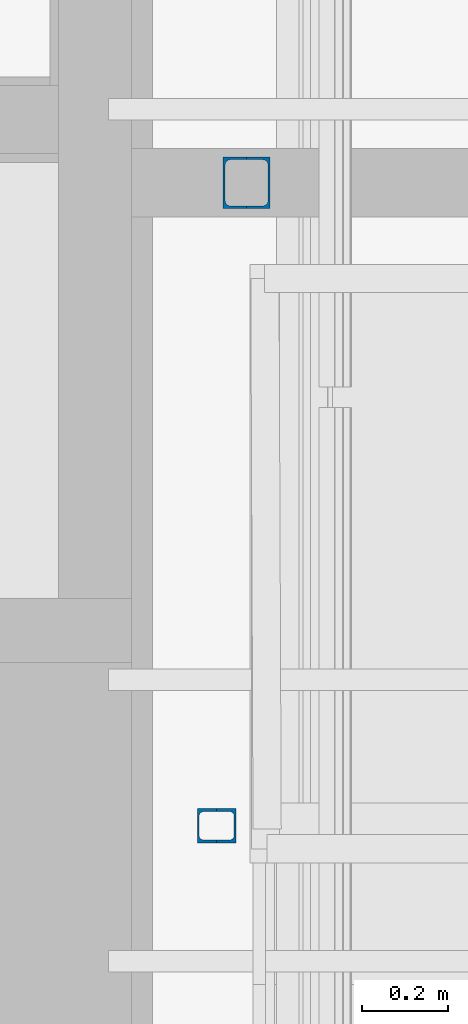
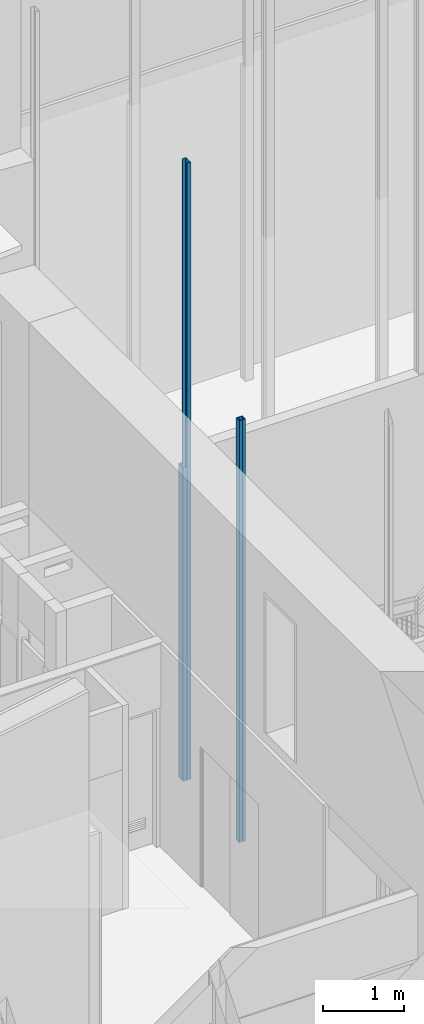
# One storey, part 3 of 75: 4 columns.
"""IFC2X3 building model written with IfcOpenShell, lengths in metres."""

from ifc_helpers import new_model, entity, si_unit, converted_unit, derived_unit, direction, frame, frame_2d, origin, place, context, subcontext, project, spatial, polyline, circle_curve, parameter, trimmed, segment, composite_curve, outline, extrude, source, transform, mapped, material, type_object, type_shapes, element, save


model = new_model("IFC2X3")

# Units and contexts
model_context = context("Model", 3, precision=1e-05, world=origin(), true_north=direction((6.12303176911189e-17, 1.0)))
body_context = subcontext(model_context, "Body", "Model", "MODEL_VIEW")
ifc_project = project(units=[si_unit("LENGTHUNIT", "METRE"), si_unit("AREAUNIT", "SQUARE_METRE"), si_unit("VOLUMEUNIT", "CUBIC_METRE"), converted_unit("PLANEANGLEUNIT", "DEGREE", entity("IfcRatioMeasure", 0.0174532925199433), si_unit("PLANEANGLEUNIT", "RADIAN"), dimensions=[0, 0, 0, 0, 0, 0, 0]), si_unit("MASSUNIT", "GRAM", prefix="KILO"), derived_unit("MASSDENSITYUNIT", [(si_unit("MASSUNIT", "GRAM", prefix="KILO"), 1), (si_unit("LENGTHUNIT", "METRE"), -3)]), derived_unit("MOMENTOFINERTIAUNIT", [(si_unit("LENGTHUNIT", "METRE"), 4)]), si_unit("TIMEUNIT", "SECOND"), si_unit("FREQUENCYUNIT", "HERTZ"), si_unit("THERMODYNAMICTEMPERATUREUNIT", "DEGREE_CELSIUS"), derived_unit("THERMALTRANSMITTANCEUNIT", [(si_unit("MASSUNIT", "GRAM", prefix="KILO"), 1), (si_unit("THERMODYNAMICTEMPERATUREUNIT", "KELVIN"), -1), (si_unit("TIMEUNIT", "SECOND"), -3)]), derived_unit("VOLUMETRICFLOWRATEUNIT", [(si_unit("LENGTHUNIT", "METRE"), 3), (si_unit("TIMEUNIT", "SECOND"), -1)]), si_unit("ELECTRICCURRENTUNIT", "AMPERE"), si_unit("ELECTRICVOLTAGEUNIT", "VOLT"), si_unit("POWERUNIT", "WATT"), si_unit("FORCEUNIT", "NEWTON", prefix="KILO"), si_unit("ILLUMINANCEUNIT", "LUX"), si_unit("LUMINOUSFLUXUNIT", "LUMEN"), si_unit("LUMINOUSINTENSITYUNIT", "CANDELA"), derived_unit("USERDEFINED", [(si_unit("MASSUNIT", "GRAM", prefix="KILO"), -1), (si_unit("LENGTHUNIT", "METRE"), -2), (si_unit("TIMEUNIT", "SECOND"), 3), (si_unit("LUMINOUSFLUXUNIT", "LUMEN"), 1)]), derived_unit("LINEARVELOCITYUNIT", [(si_unit("LENGTHUNIT", "METRE"), 1), (si_unit("TIMEUNIT", "SECOND"), -1)]), si_unit("PRESSUREUNIT", "PASCAL"), derived_unit("USERDEFINED", [(si_unit("LENGTHUNIT", "METRE"), -2), (si_unit("MASSUNIT", "GRAM", prefix="KILO"), 1), (si_unit("TIMEUNIT", "SECOND"), -2)]), derived_unit("LINEARFORCEUNIT", [(si_unit("MASSUNIT", "GRAM", prefix="KILO"), 1), (si_unit("LENGTHUNIT", "METRE"), 1), (si_unit("TIMEUNIT", "SECOND"), -2), (si_unit("LENGTHUNIT", "METRE"), -1)]), derived_unit("PLANARFORCEUNIT", [(si_unit("MASSUNIT", "GRAM", prefix="KILO"), 1), (si_unit("LENGTHUNIT", "METRE"), 1), (si_unit("TIMEUNIT", "SECOND"), -2), (si_unit("LENGTHUNIT", "METRE"), -2)])], contexts=[model_context])

# Site, building, storey
site_placement = place(None, origin())
site = spatial("IfcSite", under=ifc_project, at=site_placement, Name="Superficie", CompositionType="ELEMENT")
building_placement = place(site_placement, origin())
building = spatial("IfcBuilding", under=site, at=building_placement, Name="Telegestiones", CompositionType="ELEMENT")
storey_placement = place(building_placement, origin())
storey = spatial("IfcBuildingStorey", under=building, at=storey_placement, Name="Nivel 0_NPT", CompositionType="ELEMENT", Elevation=0.0)

# Columns
ifc_material = material(Name="Metal - Acero - 345 MPa")
column_type_1 = type_object("IfcColumnType", Name="UPE - Canales de ala paralela - Pilar:UPE 120", PredefinedType="COLUMN", material=ifc_material)
shared_shape_1 = source(origin(), body_context, "Body", "SweptSolid", [
    extrude(outline(composite_curve([segment(polyline([(-0.0600000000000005, -0.0264), (0.0599999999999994, -0.0264)]), True, "CONTINUOUS"), segment(polyline([(0.0599999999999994, -0.0264), (0.0599999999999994, 0.0286)]), True, "CONTINUOUS"), segment(polyline([(0.0599999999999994, 0.0286), (0.0540000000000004, 0.0286)]), True, "CONTINUOUS"), segment(polyline([(0.0540000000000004, 0.0286), (0.0540000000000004, -0.00939999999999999)]), True, "CONTINUOUS"), segment(trimmed(circle_curve(frame_2d((0.0420000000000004, -0.00939999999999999), x_axis=(1.0, 0.0)), 0.012), [parameter(270.0)], [parameter(0.0)], True, "PARAMETER"), False, "CONTINUOUS"), segment(polyline([(0.0420000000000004, -0.0214), (-0.0419999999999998, -0.0214)]), True, "CONTINUOUS"), segment(trimmed(circle_curve(frame_2d((-0.0419999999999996, -0.00939999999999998), x_axis=(0.0, -1.0)), 0.012), [parameter(270.0)], [parameter(0.0)], True, "PARAMETER"), False, "CONTINUOUS"), segment(polyline([(-0.0539999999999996, -0.00939999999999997), (-0.0539999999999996, 0.0286)]), True, "CONTINUOUS"), segment(polyline([(-0.0539999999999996, 0.0286), (-0.0600000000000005, 0.0286)]), True, "CONTINUOUS"), segment(polyline([(-0.0600000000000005, 0.0286), (-0.0600000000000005, -0.0264)]), True, "CONTINUOUS")], self_intersect=False)), frame((0.00660000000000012, 0.0, 0.0), z_axis=(0.0, 0.0, 1.0), x_axis=(0.0, -1.0, 0.0)), (0.0, 0.0, 1.0), 9.27),
])
type_shapes(column_type_1, [shared_shape_1])
column_1_placement = place(storey_placement, frame((6.33901262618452, 6.43560722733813, 0.0), z_axis=(0.0, 0.0, 1.0), x_axis=(-1.0, 0.0, 0.0)))
element("IfcColumn", 1, at=column_1_placement, inside=storey, type_object=column_type_1, Name="UPE - Canales de ala paralela - Pilar:UPE 120", ObjectType="UPE - Canales de ala paralela - Pilar:UPE 120", context=body_context, shape_type="MappedRepresentation", body=[
    mapped(shared_shape_1, transform((0.0, 0.0, 0.0), scale=1.0)),
])
column_type_2 = type_object("IfcColumnType", Name="UPE - Canales de ala paralela - Pilar:UPE 80", PredefinedType="COLUMN", material=ifc_material)
shared_shape_2 = source(origin(), body_context, "Body", "SweptSolid", [
    extrude(outline(composite_curve([segment(polyline([(-0.0399999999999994, -0.0216), (0.0400000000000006, -0.0216)]), True, "CONTINUOUS"), segment(polyline([(0.0400000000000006, -0.0216), (0.0400000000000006, 0.0234)]), True, "CONTINUOUS"), segment(polyline([(0.0400000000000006, 0.0234), (0.0329999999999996, 0.0234)]), True, "CONTINUOUS"), segment(polyline([(0.0329999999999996, 0.0234), (0.0329999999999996, -0.00759999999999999)]), True, "CONTINUOUS"), segment(trimmed(circle_curve(frame_2d((0.0229999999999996, -0.00759999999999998), x_axis=(1.0, 0.0)), 0.01), [parameter(270.0)], [parameter(0.0)], True, "PARAMETER"), False, "CONTINUOUS"), segment(polyline([(0.0229999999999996, -0.0176), (-0.0230000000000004, -0.0176)]), True, "CONTINUOUS"), segment(trimmed(circle_curve(frame_2d((-0.0230000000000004, -0.00760000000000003), x_axis=(0.0, -1.0)), 0.00999999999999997), [parameter(270.0)], [parameter(0.0)], True, "PARAMETER"), False, "CONTINUOUS"), segment(polyline([(-0.0330000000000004, -0.0076), (-0.0330000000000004, 0.0234)]), True, "CONTINUOUS"), segment(polyline([(-0.0330000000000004, 0.0234), (-0.0399999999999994, 0.0234)]), True, "CONTINUOUS"), segment(polyline([(-0.0399999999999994, 0.0234), (-0.0399999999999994, -0.0216)]), True, "CONTINUOUS")], self_intersect=False)), frame((0.00340000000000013, 0.0, 0.0), z_axis=(0.0, 0.0, 1.0), x_axis=(0.0, -1.0, 0.0)), (0.0, 0.0, 1.0), 6.34),
])
type_shapes(column_type_2, [shared_shape_2])
column_2_placement = place(storey_placement, frame((6.20701262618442, 4.93160722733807, 0.0)))
element("IfcColumn", 2, at=column_2_placement, inside=storey, type_object=column_type_2, Name="UPE - Canales de ala paralela - Pilar:UPE 80", ObjectType="UPE - Canales de ala paralela - Pilar:UPE 80", context=body_context, shape_type="MappedRepresentation", body=[
    mapped(shared_shape_2, transform((0.0, 0.0, 0.0), scale=1.0)),
])
column_type_3 = type_object("IfcColumnType", Name="UPE - Canales de ala paralela - Pilar:UPE 120", PredefinedType="COLUMN", material=ifc_material)
shared_shape_3 = source(origin(), body_context, "Body", "SweptSolid", [
    extrude(outline(composite_curve([segment(polyline([(-0.0599999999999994, -0.0264), (0.0600000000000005, -0.0264)]), True, "CONTINUOUS"), segment(polyline([(0.0600000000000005, -0.0264), (0.0600000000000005, 0.0286)]), True, "CONTINUOUS"), segment(polyline([(0.0600000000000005, 0.0286), (0.0539999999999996, 0.0286)]), True, "CONTINUOUS"), segment(polyline([(0.0539999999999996, 0.0286), (0.0539999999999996, -0.00939999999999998)]), True, "CONTINUOUS"), segment(trimmed(circle_curve(frame_2d((0.0419999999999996, -0.0094), x_axis=(1.0, 0.0)), 0.012), [parameter(270.0)], [parameter(0.0)], True, "PARAMETER"), False, "CONTINUOUS"), segment(polyline([(0.0419999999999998, -0.0214), (-0.0420000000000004, -0.0214)]), True, "CONTINUOUS"), segment(trimmed(circle_curve(frame_2d((-0.0420000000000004, -0.00940000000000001), x_axis=(0.0, -1.0)), 0.012), [parameter(270.0)], [parameter(0.0)], True, "PARAMETER"), False, "CONTINUOUS"), segment(polyline([(-0.0540000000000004, -0.0094), (-0.0540000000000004, 0.0286)]), True, "CONTINUOUS"), segment(polyline([(-0.0540000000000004, 0.0286), (-0.0599999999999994, 0.0286)]), True, "CONTINUOUS"), segment(polyline([(-0.0599999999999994, 0.0286), (-0.0599999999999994, -0.0264)]), True, "CONTINUOUS")], self_intersect=False)), frame((0.00660000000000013, 0.0, 0.0), z_axis=(0.0, 0.0, 1.0), x_axis=(0.0, -1.0, 0.0)), (0.0, 0.0, 1.0), 4.71),
])
type_shapes(column_type_3, [shared_shape_3])
column_3_placement = place(storey_placement, frame((6.26861262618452, 6.43560722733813, 0.0)))
element("IfcColumn", 3, at=column_3_placement, inside=storey, type_object=column_type_3, Name="UPE - Canales de ala paralela - Pilar:UPE 120", ObjectType="UPE - Canales de ala paralela - Pilar:UPE 120", context=body_context, shape_type="MappedRepresentation", body=[
    mapped(shared_shape_3, transform((0.0, 0.0, 0.0), scale=1.0)),
])
column_type_4 = type_object("IfcColumnType", Name="UPE - Canales de ala paralela - Pilar:UPE 80", PredefinedType="COLUMN", material=ifc_material)
shared_shape_4 = source(origin(), body_context, "Body", "SweptSolid", [
    extrude(outline(composite_curve([segment(polyline([(-0.0400000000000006, -0.0216), (0.0399999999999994, -0.0216)]), True, "CONTINUOUS"), segment(polyline([(0.0399999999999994, -0.0216), (0.0399999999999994, 0.0234)]), True, "CONTINUOUS"), segment(polyline([(0.0399999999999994, 0.0234), (0.0330000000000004, 0.0234)]), True, "CONTINUOUS"), segment(polyline([(0.0330000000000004, 0.0234), (0.0330000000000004, -0.0076)]), True, "CONTINUOUS"), segment(trimmed(circle_curve(frame_2d((0.0230000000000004, -0.00760000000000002), x_axis=(1.0, 0.0)), 0.00999999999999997), [parameter(270.0)], [parameter(0.0)], True, "PARAMETER"), False, "CONTINUOUS"), segment(polyline([(0.0230000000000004, -0.0176), (-0.0229999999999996, -0.0176)]), True, "CONTINUOUS"), segment(trimmed(circle_curve(frame_2d((-0.0229999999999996, -0.00759999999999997), x_axis=(0.0, -1.0)), 0.01), [parameter(270.0)], [parameter(0.0)], True, "PARAMETER"), False, "CONTINUOUS"), segment(polyline([(-0.0329999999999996, -0.00759999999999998), (-0.0329999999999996, 0.0234)]), True, "CONTINUOUS"), segment(polyline([(-0.0329999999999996, 0.0234), (-0.0400000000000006, 0.0234)]), True, "CONTINUOUS"), segment(polyline([(-0.0400000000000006, 0.0234), (-0.0400000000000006, -0.0216)]), True, "CONTINUOUS")], self_intersect=False)), frame((0.00340000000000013, 0.0, 0.0), z_axis=(0.0, 0.0, 1.0), x_axis=(0.0, -1.0, 0.0)), (0.0, 0.0, 1.0), 6.34),
])
type_shapes(column_type_4, [shared_shape_4])
column_4_placement = place(storey_placement, frame((6.26061262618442, 4.93160722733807, 0.0), z_axis=(0.0, 0.0, 1.0), x_axis=(-1.0, 0.0, 0.0)))
element("IfcColumn", 4, at=column_4_placement, inside=storey, type_object=column_type_4, Name="UPE - Canales de ala paralela - Pilar:UPE 80", ObjectType="UPE - Canales de ala paralela - Pilar:UPE 80", context=body_context, shape_type="MappedRepresentation", body=[
    mapped(shared_shape_4, transform((0.0, 0.0, 0.0), scale=1.0)),
])

save(model, "model.ifc")
